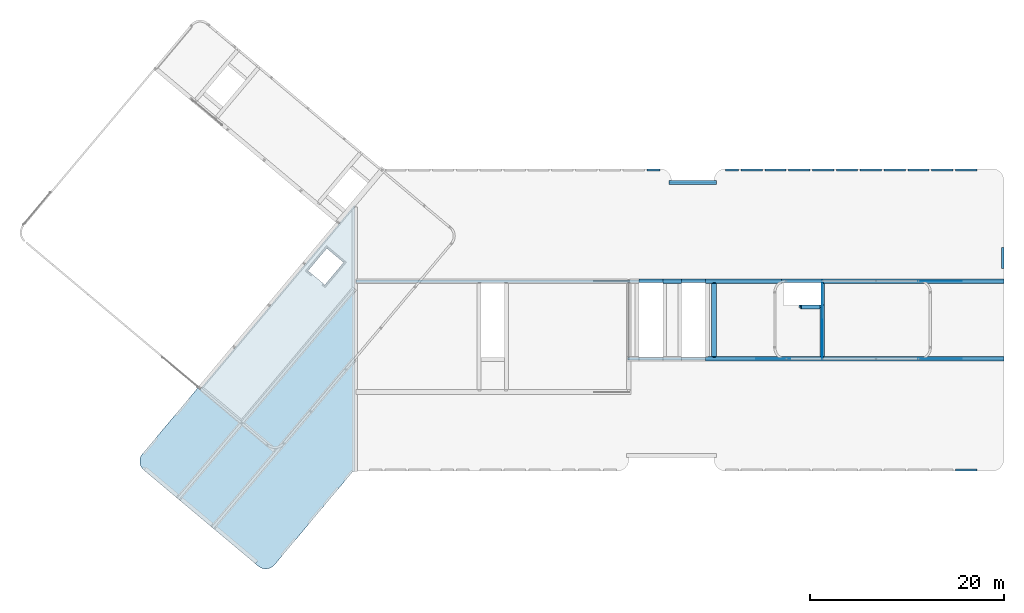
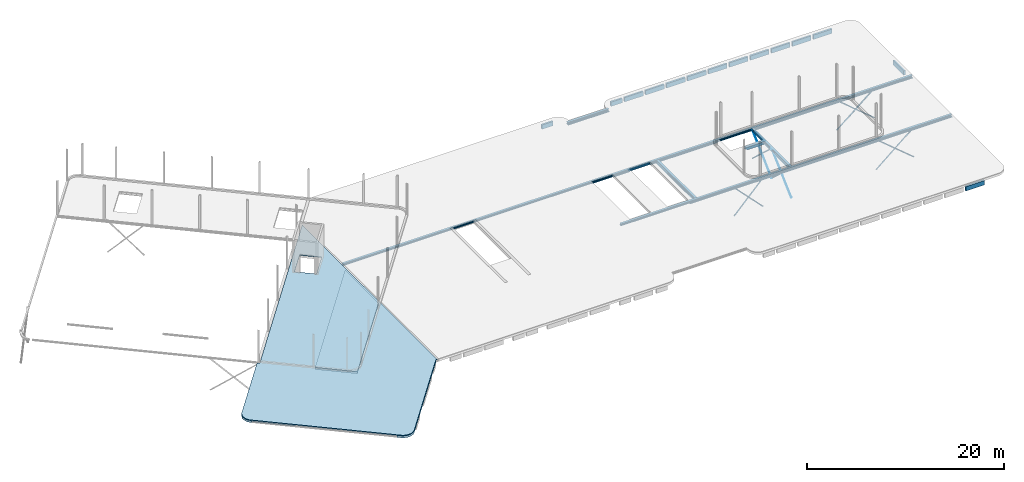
# One storey, part 8 of 11: 43 beams, 5 slabs, 1 opening.
"""IFC2X3 building model written with IfcOpenShell, lengths in millimetres."""

from ifc_helpers import new_model, entity, si_unit, converted_unit, derived_unit, direction, frame, frame_2d, origin, origin_2d_with_axis, place, context, subcontext, project, spatial, polyline, circle_curve, parameter, trimmed, segment, composite_curve, rectangle, i_section, outline, extrude, boolean, material, layer, layer_set, layer_usage, type_object, element, save


model = new_model("IFC2X3")

# Units and contexts
model_context = context("Model", 3, precision=0.01, world=origin(), true_north=direction((6.123031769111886e-17, 1.0)))
body_context = subcontext(model_context, "Body", "Model", "MODEL_VIEW")
ifc_project = project(units=[si_unit("LENGTHUNIT", "METRE", prefix="MILLI"), si_unit("AREAUNIT", "SQUARE_METRE"), si_unit("VOLUMEUNIT", "CUBIC_METRE"), derived_unit("MASSDENSITYUNIT", [(si_unit("MASSUNIT", "GRAM", prefix="KILO"), 1), (si_unit("LENGTHUNIT", "METRE"), -3)]), si_unit("MASSUNIT", "GRAM", prefix="KILO"), converted_unit("PLANEANGLEUNIT", "DEGREE", entity("IfcPlaneAngleMeasure", 0.017453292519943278), si_unit("PLANEANGLEUNIT", "RADIAN"), dimensions=[0, 0, 0, 0, 0, 0, 0])], contexts=[model_context])

# Site, building, storey
site_placement = place(None, origin())
site = spatial("IfcSite", under=ifc_project, at=site_placement, Name="Default", CompositionType="ELEMENT")
building_placement = place(site_placement, origin())
building = spatial("IfcBuilding", under=site, at=building_placement, Name="AT constructie", CompositionType="ELEMENT")
storey_placement = place(building_placement, frame((0.0, 0.0, 7728.0)))
storey = spatial("IfcBuildingStorey", under=building, at=storey_placement, Name="02 tweede verdieping", CompositionType="ELEMENT", Elevation=7728.0)

# Beams
ifc_material_1 = material(Name="f2_beton_prefab_gen")
beam_type_1 = type_object("IfcBeamType", Name="balk vierkant_gen_214x544 pbl", PredefinedType="NOTDEFINED")
for number, where in (
    (1, (83681.87463111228, 42871.04350852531, 0.0)),
    (2, (81221.87463111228, 42871.04350852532, 0.0)),
    (3, (86141.8746311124, 42871.0435085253, 0.0)),
):
    element("IfcBeam", number, at=place(storey_placement, frame(where)), inside=storey, type_object=beam_type_1, material=ifc_material_1, Name="NLRS_28_SF_LIB_balk vierkant prefab_gen_AT:balk vierkant_gen_214x544 pbl", ObjectType="NLRS_28_SF_LIB_balk vierkant prefab_gen_AT:balk vierkant_gen_214x544 pbl", context=body_context, shape_type="SweptSolid", body=[
        extrude(rectangle(XDim=544.0000000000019, YDim=213.99999999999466, at=frame_2d((0.0, 4.334310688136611e-12), x_axis=(1.0, 0.0))), frame((-190.0, -107.0, -642.0), z_axis=(1.0, 0.0, 0.0), x_axis=(0.0, 0.0, -1.0)), (0.0, 0.0, 1.0), 2190.0000000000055),
    ])
beam_1_placement = place(storey_placement, frame((88601.87463111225, 42871.04350852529, 0.0)))
element("IfcBeam", 4, at=beam_1_placement, inside=storey, type_object=beam_type_1, material=ifc_material_1, Name="NLRS_28_SF_LIB_balk vierkant prefab_gen_AT:balk vierkant_gen_214x544 pbl", ObjectType="NLRS_28_SF_LIB_balk vierkant prefab_gen_AT:balk vierkant_gen_214x544 pbl", context=body_context, shape_type="SweptSolid", body=[
    extrude(rectangle(XDim=544.0000000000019, YDim=213.99999999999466, at=frame_2d((0.0, -4.334310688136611e-12), x_axis=(1.0, 0.0))), frame((-190.0, -107.0, -642.0), z_axis=(1.0, 0.0, 0.0), x_axis=(0.0, 0.0, -1.0)), (0.0, 0.0, 1.0), 2190.0000000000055),
])
for number, where in (
    (5, (91061.87463111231, 42871.04350852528, 0.0)),
    (6, (93521.87463111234, 42871.043508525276, 0.0)),
    (7, (95981.87463111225, 42871.04350852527, 0.0)),
):
    element("IfcBeam", number, at=place(storey_placement, frame(where)), inside=storey, type_object=beam_type_1, material=ifc_material_1, Name="NLRS_28_SF_LIB_balk vierkant prefab_gen_AT:balk vierkant_gen_214x544 pbl", ObjectType="NLRS_28_SF_LIB_balk vierkant prefab_gen_AT:balk vierkant_gen_214x544 pbl", context=body_context, shape_type="SweptSolid", body=[
        extrude(rectangle(XDim=544.0000000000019, YDim=213.99999999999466, at=frame_2d((0.0, 4.334310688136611e-12), x_axis=(1.0, 0.0))), frame((-190.0, -107.0, -642.0), z_axis=(1.0, 0.0, 0.0), x_axis=(0.0, 0.0, -1.0)), (0.0, 0.0, 1.0), 2190.0000000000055),
    ])
beam_2_placement = place(storey_placement, frame((98441.87463111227, 42871.043508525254, 0.0)))
element("IfcBeam", 8, at=beam_2_placement, inside=storey, type_object=beam_type_1, material=ifc_material_1, Name="NLRS_28_SF_LIB_balk vierkant prefab_gen_AT:balk vierkant_gen_214x544 pbl", ObjectType="NLRS_28_SF_LIB_balk vierkant prefab_gen_AT:balk vierkant_gen_214x544 pbl", context=body_context, shape_type="SweptSolid", body=[
    extrude(rectangle(XDim=544.0000000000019, YDim=213.99999999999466, at=frame_2d((0.0, -4.334310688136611e-12), x_axis=(1.0, 0.0))), frame((-190.0, -107.0, -642.0), z_axis=(1.0, 0.0, 0.0), x_axis=(0.0, 0.0, -1.0)), (0.0, 0.0, 1.0), 2190.0000000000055),
])
for number, where in (
    (9, (100901.8746311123, 42871.04350852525, 0.0)),
    (10, (103361.87463111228, 42871.04350852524, 0.0)),
):
    element("IfcBeam", number, at=place(storey_placement, frame(where)), inside=storey, type_object=beam_type_1, material=ifc_material_1, Name="NLRS_28_SF_LIB_balk vierkant prefab_gen_AT:balk vierkant_gen_214x544 pbl", ObjectType="NLRS_28_SF_LIB_balk vierkant prefab_gen_AT:balk vierkant_gen_214x544 pbl", context=body_context, shape_type="SweptSolid", body=[
        extrude(rectangle(XDim=544.0000000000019, YDim=213.99999999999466, at=frame_2d((0.0, 4.334310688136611e-12), x_axis=(1.0, 0.0))), frame((-190.0, -107.0, -642.0), z_axis=(1.0, 0.0, 0.0), x_axis=(0.0, 0.0, -1.0)), (0.0, 0.0, 1.0), 2190.0000000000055),
    ])
beam_3_placement = place(storey_placement, frame((79641.87463111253, 42871.04350852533, 0.0)))
element("IfcBeam", 11, at=beam_3_placement, inside=storey, type_object=beam_type_1, material=ifc_material_1, Name="NLRS_28_SF_LIB_balk vierkant prefab_gen_AT:balk vierkant_gen_214x544 pbl", ObjectType="NLRS_28_SF_LIB_balk vierkant prefab_gen_AT:balk vierkant_gen_214x544 pbl", context=body_context, shape_type="SweptSolid", body=[
    extrude(rectangle(XDim=544.0000000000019, YDim=213.99999999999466, at=frame_2d((0.0, -4.334310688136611e-12), x_axis=(1.0, 0.0))), frame((-190.0, -107.0, -642.0), z_axis=(1.0, 0.0, 0.0), x_axis=(0.0, 0.0, -1.0)), (0.0, 0.0, 1.0), 1309.999999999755),
])
beam_4_placement = place(storey_placement, frame((103361.87463111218, 11671.043508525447, 0.0)))
element("IfcBeam", 12, at=beam_4_placement, inside=storey, type_object=beam_type_1, material=ifc_material_1, Name="NLRS_28_SF_LIB_balk vierkant prefab_gen_AT:balk vierkant_gen_214x544 pbl", ObjectType="NLRS_28_SF_LIB_balk vierkant prefab_gen_AT:balk vierkant_gen_214x544 pbl", context=body_context, shape_type="SweptSolid", body=[
    extrude(rectangle(XDim=544.0000000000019, YDim=213.999999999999, at=frame_2d((0.0, -1.0871303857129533e-12), x_axis=(1.0, 0.0))), frame((-190.0, 107.0, -642.0), z_axis=(1.0, 0.0, 0.0), x_axis=(0.0, 0.0, -1.0)), (0.0, 0.0, 1.0), 2190.000000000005),
])
beam_5_placement = place(storey_placement, frame((108146.87463111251, 34576.043508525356, 0.0), z_axis=(0.0, 0.0, 1.0), x_axis=(0.0, -1.0, 0.0)))
element("IfcBeam", 13, at=beam_5_placement, inside=storey, type_object=beam_type_1, material=ifc_material_1, Name="NLRS_28_SF_LIB_balk vierkant prefab_gen_AT:balk vierkant_gen_214x544 pbl", ObjectType="NLRS_28_SF_LIB_balk vierkant prefab_gen_AT:balk vierkant_gen_214x544 pbl", context=body_context, shape_type="SweptSolid", body=[
    extrude(rectangle(XDim=544.0000000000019, YDim=213.999999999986, at=origin_2d_with_axis()), frame((-190.0, -107.0, -642.0), z_axis=(1.0, 0.0, 0.0), x_axis=(0.0, 0.0, -1.0)), (0.0, 0.0, 1.0), 2190.0000000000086),
])
beam_6_placement = place(storey_placement, frame((71521.87463111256, 42871.043508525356, 0.0)))
element("IfcBeam", 14, at=beam_6_placement, inside=storey, type_object=beam_type_1, material=ifc_material_1, Name="NLRS_28_SF_LIB_balk vierkant prefab_gen_AT:balk vierkant_gen_214x544 pbl", ObjectType="NLRS_28_SF_LIB_balk vierkant prefab_gen_AT:balk vierkant_gen_214x544 pbl", context=body_context, shape_type="SweptSolid", body=[
    extrude(rectangle(XDim=544.0000000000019, YDim=213.99999999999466, at=frame_2d((0.0, 4.334310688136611e-12), x_axis=(1.0, 0.0))), frame((-190.0, -107.0, -642.0), z_axis=(1.0, 0.0, 0.0), x_axis=(0.0, 0.0, -1.0)), (0.0, 0.0, 1.0), 1309.999999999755),
])
ifc_material_2 = material(Name="h2_staal_S355")
beam_type_2 = type_object("IfcBeamType", Name="balk strip liggend_gen_500x15", PredefinedType="NOTDEFINED")
beam_7_placement = place(storey_placement, frame((77351.87463111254, 23271.043508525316, 0.0)))
element("IfcBeam", 15, at=beam_7_placement, inside=storey, type_object=beam_type_2, material=ifc_material_2, Name="NLRS_28_SF_LIB_balk strip_gen_AT:balk strip liggend_gen_500x15", ObjectType="NLRS_28_SF_LIB_balk strip_gen_AT:balk strip liggend_gen_500x15", context=body_context, shape_type="SweptSolid", body=[
    extrude(rectangle(XDim=14.99999999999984, YDim=499.999999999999, at=frame_2d((5.413447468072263e-13, 0.0), x_axis=(1.0, 0.0))), frame((6.096022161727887e-07, 0.0, -377.5000000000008), z_axis=(1.0, 0.0, 0.0), x_axis=(0.0, 0.0, -1.0)), (0.0, 0.0, 1.0), 30816.999999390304),
])
beam_8_placement = place(storey_placement, frame((78246.8746311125, 31021.04350852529, 0.0), z_axis=(0.0, 0.0, 1.0), x_axis=(0.0, -1.0, 0.0)))
element("IfcBeam", 16, at=beam_8_placement, inside=storey, type_object=beam_type_2, material=ifc_material_2, Name="NLRS_28_SF_LIB_balk strip_gen_AT:balk strip liggend_gen_500x15", ObjectType="NLRS_28_SF_LIB_balk strip_gen_AT:balk strip liggend_gen_500x15", context=body_context, shape_type="SweptSolid", body=[
    extrude(rectangle(XDim=14.99999999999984, YDim=499.999999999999, at=frame_2d((5.413447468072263e-13, -4.334310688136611e-12), x_axis=(1.0, 0.0))), frame((0.0, 0.0, -377.5000000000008), z_axis=(1.0, 0.0, 0.0), x_axis=(0.0, 0.0, -1.0)), (0.0, 0.0, 1.0), 7499.999999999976),
])
beam_9_placement = place(storey_placement, frame((89277.37463111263, 31271.043508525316, 0.0)))
element("IfcBeam", 17, at=beam_9_placement, inside=storey, type_object=beam_type_2, material=ifc_material_2, Name="NLRS_28_SF_LIB_balk strip_gen_AT:balk strip liggend_gen_500x15", ObjectType="NLRS_28_SF_LIB_balk strip_gen_AT:balk strip liggend_gen_500x15", context=body_context, shape_type="SweptSolid", body=[
    extrude(rectangle(XDim=14.99999999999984, YDim=499.999999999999, at=frame_2d((5.413447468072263e-13, 4.334310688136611e-12), x_axis=(1.0, 0.0))), frame((0.0, 0.0, -377.5000000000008), z_axis=(1.0, 0.0, 0.0), x_axis=(0.0, 0.0, -1.0)), (0.0, 0.0, 1.0), 18869.49999999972),
])
beam_10_placement = place(storey_placement, frame((77351.87463111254, 31271.043508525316, 0.0)))
element("IfcBeam", 18, at=beam_10_placement, inside=storey, type_object=beam_type_2, material=ifc_material_2, Name="NLRS_28_SF_LIB_balk strip_gen_AT:balk strip liggend_gen_500x15", ObjectType="NLRS_28_SF_LIB_balk strip_gen_AT:balk strip liggend_gen_500x15", context=body_context, shape_type="SweptSolid", body=[
    extrude(rectangle(XDim=14.99999999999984, YDim=499.999999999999, at=frame_2d((5.413447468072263e-13, 4.334310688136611e-12), x_axis=(1.0, 0.0))), frame((0.0, 0.0, -377.5000000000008), z_axis=(1.0, 0.0, 0.0), x_axis=(0.0, 0.0, -1.0)), (0.0, 0.0, 1.0), 7865.000000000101),
])
beam_11_placement = place(storey_placement, frame((89407.37463111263, 28828.043508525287, 0.0), z_axis=(0.0, 0.0, 1.0), x_axis=(0.0, -1.0, 0.0)))
element("IfcBeam", 19, at=beam_11_placement, inside=storey, type_object=beam_type_2, material=ifc_material_2, Name="NLRS_28_SF_LIB_balk strip_gen_AT:balk strip liggend_gen_500x15", ObjectType="NLRS_28_SF_LIB_balk strip_gen_AT:balk strip liggend_gen_500x15", context=body_context, shape_type="SweptSolid", body=[
    extrude(rectangle(XDim=14.99999999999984, YDim=499.9999999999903, at=frame_2d((5.413447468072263e-13, 8.668621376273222e-12), x_axis=(1.0, 0.0))), frame((0.0, 0.0, -377.5000000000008), z_axis=(1.0, 0.0, 0.0), x_axis=(0.0, 0.0, -1.0)), (0.0, 0.0, 1.0), 5307.000000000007),
])
beam_12_placement = place(storey_placement, frame((72951.87463111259, 31271.043508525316, 0.0)))
element("IfcBeam", 20, at=beam_12_placement, inside=storey, type_object=beam_type_2, material=ifc_material_2, Name="NLRS_28_SF_LIB_balk strip_gen_AT:balk strip liggend_gen_500x15", ObjectType="NLRS_28_SF_LIB_balk strip_gen_AT:balk strip liggend_gen_500x15", context=body_context, shape_type="SweptSolid", body=[
    extrude(rectangle(XDim=14.99999999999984, YDim=499.999999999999, at=frame_2d((5.413447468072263e-13, 4.334310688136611e-12), x_axis=(1.0, 0.0))), frame((0.0, 0.0, -377.5000000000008), z_axis=(1.0, 0.0, 0.0), x_axis=(0.0, 0.0, -1.0)), (0.0, 0.0, 1.0), 1949.9999999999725),
])
beam_type_3 = type_object("IfcBeamType", Name="balk HE_gen_HEB260", PredefinedType="NOTDEFINED")
beam_13_placement = place(storey_placement, frame((78473.37462790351, 41541.04350852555, 0.0), z_axis=(0.0, 0.0, 1.0), x_axis=(-1.0, 0.0, 0.0)))
element("IfcBeam", 21, at=beam_13_placement, inside=storey, type_object=beam_type_3, material=ifc_material_2, Name="NLRS_28_SF_LIB_balk HEB_gen_AT:balk HE_gen_HEB260", ObjectType="NLRS_28_SF_LIB_balk HEB_gen_AT:balk HE_gen_HEB260", context=body_context, shape_type="SweptSolid", body=[
    extrude(i_section(OverallWidth=260.00000000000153, OverallDepth=260.00000000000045, WebThickness=9.999999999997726, FlangeThickness=17.50000000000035, FilletRadius=24.00000000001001, at=frame_2d((5.400124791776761e-13, 4.320099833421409e-12), x_axis=(0.0, 1.0))), frame((0.0, 0.0, -240.0), z_axis=(1.0, 0.0, 0.0), x_axis=(0.0, 0.0, -1.0)), (0.0, 0.0, 1.0), 4852.9999967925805),
])
beam_14_placement = place(storey_placement, frame((69316.87463111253, 23271.043508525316, 0.0)))
element("IfcBeam", 22, at=beam_14_placement, inside=storey, type_object=beam_type_3, material=ifc_material_2, Name="NLRS_28_SF_LIB_balk HEB_gen_AT:balk HE_gen_HEB260", ObjectType="NLRS_28_SF_LIB_balk HEB_gen_AT:balk HE_gen_HEB260", context=body_context, shape_type="SweptSolid", body=[
    extrude(i_section(OverallWidth=260.00000000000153, OverallDepth=260.00000000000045, WebThickness=9.999999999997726, FlangeThickness=17.50000000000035, FilletRadius=23.999999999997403, at=frame_2d((5.400124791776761e-13, -4.320099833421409e-12), x_axis=(0.0, 1.0))), frame((0.0, 0.0, -240.0), z_axis=(1.0, 0.0, 0.0), x_axis=(0.0, 0.0, -1.0)), (0.0, 0.0, 1.0), 38851.99999999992),
])
beam_15_placement = place(storey_placement, frame((41146.874631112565, 31271.043508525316, 0.0)))
element("IfcBeam", 23, at=beam_15_placement, inside=storey, type_object=beam_type_3, material=ifc_material_2, Name="NLRS_28_SF_LIB_balk HEB_gen_AT:balk HE_gen_HEB260", ObjectType="NLRS_28_SF_LIB_balk HEB_gen_AT:balk HE_gen_HEB260", context=body_context, shape_type="SweptSolid", body=[
    extrude(i_section(OverallWidth=260.00000000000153, OverallDepth=260.00000000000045, WebThickness=9.999999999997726, FlangeThickness=17.50000000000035, FilletRadius=23.999999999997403, at=frame_2d((5.400124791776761e-13, -8.668621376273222e-12), x_axis=(0.0, 1.0))), frame((150.0, 0.0, -240.0), z_axis=(1.0, 0.0, 0.0), x_axis=(0.0, 0.0, -1.0)), (0.0, 0.0, 1.0), 66849.99999999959),
])
for number, where, z_axis, x_axis in (
    (24, (78246.87463111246, 31141.04350852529, 0.0), (0.0, 0.0, 1.0), (0.0, -1.0, 0.0)),
    (25, (89407.37463111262, 31141.04350852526, 0.0), (0.0, 0.0, 1.0), (0.0, -1.0, 0.0)),
):
    element("IfcBeam", number, at=place(storey_placement, frame(where, z_axis=z_axis, x_axis=x_axis)), inside=storey, type_object=beam_type_3, material=ifc_material_2, Name="NLRS_28_SF_LIB_balk HEB_gen_AT:balk HE_gen_HEB260", ObjectType="NLRS_28_SF_LIB_balk HEB_gen_AT:balk HE_gen_HEB260", context=body_context, shape_type="SweptSolid", body=[
        extrude(i_section(OverallWidth=259.9999999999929, OverallDepth=260.00000000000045, WebThickness=9.999999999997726, FlangeThickness=17.50000000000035, FilletRadius=23.99999999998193, at=frame_2d((5.400124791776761e-13, -1.7323031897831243e-11), x_axis=(0.0, 1.0))), frame((0.0, 0.0, -240.0), z_axis=(1.0, 0.0, 0.0), x_axis=(0.0, 0.0, -1.0)), (0.0, 0.0, 1.0), 7740.0),
    ])
beam_16_placement = place(storey_placement, frame((87030.87463111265, 28678.0435085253, 0.0)))
element("IfcBeam", 26, at=beam_16_placement, inside=storey, type_object=beam_type_3, material=ifc_material_2, Name="NLRS_28_SF_LIB_balk HEB_gen_AT:balk HE_gen_HEB260", ObjectType="NLRS_28_SF_LIB_balk HEB_gen_AT:balk HE_gen_HEB260", context=body_context, shape_type="SweptSolid", body=[
    extrude(i_section(OverallWidth=259.9999999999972, OverallDepth=260.00000000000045, WebThickness=9.999999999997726, FlangeThickness=17.50000000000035, FilletRadius=23.999999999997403, at=frame_2d((5.400124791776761e-13, 4.320099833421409e-12), x_axis=(0.0, 1.0))), frame((0.0, 0.0, -240.0), z_axis=(1.0, 0.0, 0.0), x_axis=(0.0, 0.0, -1.0)), (0.0, 0.0, 1.0), 2246.4999999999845),
])
beam_type_4 = type_object("IfcBeamType", Name="balk strip liggend_gen_420x15", PredefinedType="NOTDEFINED")
beam_17_placement = place(storey_placement, frame((87244.87463111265, 28618.0435085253, 0.0)))
element("IfcBeam", 27, at=beam_17_placement, inside=storey, type_object=beam_type_4, material=ifc_material_2, Name="NLRS_28_SF_LIB_balk strip_gen_AT:balk strip liggend_gen_420x15", ObjectType="NLRS_28_SF_LIB_balk strip_gen_AT:balk strip liggend_gen_420x15", context=body_context, shape_type="SweptSolid", body=[
    extrude(rectangle(XDim=14.99999999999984, YDim=419.99999999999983, at=frame_2d((5.413447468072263e-13, 0.0), x_axis=(1.0, 0.0))), frame((0.0, 0.0, -377.5000000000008), z_axis=(1.0, 0.0, 0.0), x_axis=(0.0, 0.0, -1.0)), (0.0, 0.0, 1.0), 1912.4999999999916),
])
beam_18_placement = place(storey_placement, frame((87187.87463111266, 28618.043508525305, 0.0)))
element("IfcBeam", 28, at=beam_18_placement, inside=storey, type_object=beam_type_4, material=ifc_material_2, Name="NLRS_28_SF_LIB_balk strip_gen_AT:balk strip liggend_gen_420x15", ObjectType="NLRS_28_SF_LIB_balk strip_gen_AT:balk strip liggend_gen_420x15", context=body_context, shape_type="SweptSolid", body=[
    extrude(rectangle(XDim=14.99999999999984, YDim=419.99999999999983, at=frame_2d((-5.413447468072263e-13, 0.0), x_axis=(1.0, 0.0))), frame((0.0, 0.0, -377.5000000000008), z_axis=(1.0, 0.0, 0.0), x_axis=(0.0, 0.0, 1.0)), (0.0, 0.0, 1.0), 1969.499999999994),
])
beam_type_5 = type_object("IfcBeamType", Name="balk strip liggend_gen_400x15", PredefinedType="NOTDEFINED")
beam_19_placement = place(storey_placement, frame((78473.37463291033, 41471.04350852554, 0.0), z_axis=(0.0, 0.0, 1.0), x_axis=(-1.0, 0.0, 0.0)))
element("IfcBeam", 29, at=beam_19_placement, inside=storey, type_object=beam_type_5, material=ifc_material_2, Name="NLRS_28_SF_LIB_balk strip_gen_AT:balk strip liggend_gen_400x15", ObjectType="NLRS_28_SF_LIB_balk strip_gen_AT:balk strip liggend_gen_400x15", context=body_context, shape_type="SweptSolid", body=[
    extrude(rectangle(XDim=14.99999999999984, YDim=400.0000000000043, at=frame_2d((5.413447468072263e-13, -4.334310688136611e-12), x_axis=(1.0, 0.0))), frame((0.0, 0.0, -377.5000000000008), z_axis=(1.0, 0.0, 0.0), x_axis=(0.0, 0.0, -1.0)), (0.0, 0.0, 1.0), 4853.000001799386),
])
beam_20_placement = place(storey_placement, frame((89457.3746311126, 31021.04350852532, 0.0), z_axis=(0.0, 0.0, 1.0), x_axis=(0.0, -1.0, 0.0)))
element("IfcBeam", 30, at=beam_20_placement, inside=storey, type_object=beam_type_5, material=ifc_material_2, Name="NLRS_28_SF_LIB_balk strip_gen_AT:balk strip liggend_gen_400x15", ObjectType="NLRS_28_SF_LIB_balk strip_gen_AT:balk strip liggend_gen_400x15", context=body_context, shape_type="SweptSolid", body=[
    extrude(rectangle(XDim=14.99999999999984, YDim=400.000000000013, at=frame_2d((5.413447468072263e-13, -8.668621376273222e-12), x_axis=(1.0, 0.0))), frame((0.0, 0.0, -377.5000000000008), z_axis=(1.0, 0.0, 0.0), x_axis=(0.0, 0.0, -1.0)), (0.0, 0.0, 1.0), 2193.000000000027),
])
beam_21_placement = place(storey_placement, frame((85216.87463111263, 31321.04350852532, 0.0)))
element("IfcBeam", 31, at=beam_21_placement, inside=storey, type_object=beam_type_5, material=ifc_material_2, Name="NLRS_28_SF_LIB_balk strip_gen_AT:balk strip liggend_gen_400x15", ObjectType="NLRS_28_SF_LIB_balk strip_gen_AT:balk strip liggend_gen_400x15", context=body_context, shape_type="SweptSolid", body=[
    extrude(rectangle(XDim=14.99999999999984, YDim=400.0, at=frame_2d((5.413447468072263e-13, -2.1742607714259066e-12), x_axis=(1.0, 0.0))), frame((0.0, 0.0, -377.5000000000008), z_axis=(1.0, 0.0, 0.0), x_axis=(0.0, 0.0, -1.0)), (0.0, 0.0, 1.0), 4040.4999999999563),
])
for number, where in (
    (32, (70501.87463111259, 31321.04350852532, 0.0)),
    (33, (74901.87463111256, 31321.043508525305, 0.0)),
):
    element("IfcBeam", number, at=place(storey_placement, frame(where)), inside=storey, type_object=beam_type_5, material=ifc_material_2, Name="NLRS_28_SF_LIB_balk strip_gen_AT:balk strip liggend_gen_400x15", ObjectType="NLRS_28_SF_LIB_balk strip_gen_AT:balk strip liggend_gen_400x15", context=body_context, shape_type="SweptSolid", body=[
        extrude(rectangle(XDim=14.99999999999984, YDim=400.0, at=frame_2d((5.413447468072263e-13, -2.1742607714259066e-12), x_axis=(1.0, 0.0))), frame((0.0, 0.0, -377.5000000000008), z_axis=(1.0, 0.0, 0.0), x_axis=(0.0, 0.0, -1.0)), (0.0, 0.0, 1.0), 2449.99999999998),
    ])
beam_type_6 = type_object("IfcBeamType", Name="balk strip liggend_gen_120x10", PredefinedType="NOTDEFINED")
beam_22_placement = place(storey_placement, frame((89402.37463111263, 31271.04350852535, -240.0), z_axis=(0.0, -0.6764579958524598, 0.73648121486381), x_axis=(0.0, -0.73648121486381, -0.6764579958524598)))
element("IfcBeam", 34, at=beam_22_placement, inside=storey, type_object=beam_type_6, material=ifc_material_2, Name="NLRS_28_SF_LIB_balk strip_gen_AT:balk strip liggend_gen_120x10", ObjectType="NLRS_28_SF_LIB_balk strip_gen_AT:balk strip liggend_gen_120x10", context=body_context, shape_type="SweptSolid", body=[
    extrude(rectangle(XDim=119.99999999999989, YDim=9.999999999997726, at=frame_2d((3.4567904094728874e-12, -8.662848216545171e-12), x_axis=(1.0, 0.0))), frame((0.0, -5.0, 0.0), z_axis=(1.0, 0.0, 0.0), x_axis=(0.0, 0.0, -1.0)), (0.0, 0.0, 1.0), 5431.23153621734),
])
beam_23_placement = place(storey_placement, frame((89402.37463111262, 27227.01383872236, -199.5587482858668), z_axis=(0.0, 0.6764579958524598, 0.73648121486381), x_axis=(0.0, 0.73648121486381, -0.6764579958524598)))
element("IfcBeam", 35, at=beam_23_placement, inside=storey, type_object=beam_type_6, material=ifc_material_2, Name="NLRS_28_SF_LIB_balk strip_gen_AT:balk strip liggend_gen_120x10", ObjectType="NLRS_28_SF_LIB_balk strip_gen_AT:balk strip liggend_gen_120x10", context=body_context, shape_type="SweptSolid", body=[
    extrude(rectangle(XDim=119.99999999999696, YDim=9.999999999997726, at=frame_2d((-6.512124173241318e-12, 0.0), x_axis=(1.0, 0.0))), frame((0.0, 5.0, 0.0), z_axis=(1.0, 0.0, 0.0), x_axis=(0.0, 0.0, -1.0)), (0.0, 0.0, 1.0), 5431.23153621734),
])
beam_24_placement = place(storey_placement, frame((89412.37463111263, 23396.043508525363, -354.8124999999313), z_axis=(0.0, 0.6764579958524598, 0.73648121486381), x_axis=(0.0, 0.73648121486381, -0.6764579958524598)))
element("IfcBeam", 36, at=beam_24_placement, inside=storey, type_object=beam_type_6, material=ifc_material_2, Name="NLRS_28_SF_LIB_balk strip_gen_AT:balk strip liggend_gen_120x10", ObjectType="NLRS_28_SF_LIB_balk strip_gen_AT:balk strip liggend_gen_120x10", context=body_context, shape_type="SweptSolid", body=[
    extrude(rectangle(XDim=119.99999999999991, YDim=9.999999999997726, at=frame_2d((-2.263078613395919e-12, 0.0), x_axis=(1.0, 0.0))), frame((0.0, 5.0, 0.0), z_axis=(1.0, 0.0, 0.0), x_axis=(0.0, 0.0, -1.0)), (0.0, 0.0, 1.0), 5201.721717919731),
])
beam_25_placement = place(storey_placement, frame((89402.37463111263, 27271.043508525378, -240.0), z_axis=(0.0, -0.6764579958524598, 0.73648121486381), x_axis=(0.0, -0.73648121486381, -0.6764579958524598)))
element("IfcBeam", 37, at=beam_25_placement, inside=storey, type_object=beam_type_6, material=ifc_material_2, Name="NLRS_28_SF_LIB_balk strip_gen_AT:balk strip liggend_gen_120x10", ObjectType="NLRS_28_SF_LIB_balk strip_gen_AT:balk strip liggend_gen_120x10", context=body_context, shape_type="SweptSolid", body=[
    extrude(rectangle(XDim=120.00000000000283, YDim=9.999999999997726, at=frame_2d((6.512124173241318e-12, -8.662848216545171e-12), x_axis=(1.0, 0.0))), frame((0.0, -5.0, 0.0), z_axis=(1.0, 0.0, 0.0), x_axis=(0.0, 0.0, -1.0)), (0.0, 0.0, 1.0), 5431.23153621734),
])
beam_26_placement = place(storey_placement, frame((103746.87463111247, 23266.04350852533, -240.0), z_axis=(-0.6409390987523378, 0.0, 0.7675917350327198), x_axis=(-0.7675917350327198, 0.0, -0.6409390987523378)))
element("IfcBeam", 38, at=beam_26_placement, inside=storey, type_object=beam_type_6, material=ifc_material_2, Name="NLRS_28_SF_LIB_balk strip_gen_AT:balk strip liggend_gen_120x10", ObjectType="NLRS_28_SF_LIB_balk strip_gen_AT:balk strip liggend_gen_120x10", context=body_context, shape_type="SweptSolid", body=[
    extrude(rectangle(XDim=120.00000000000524, YDim=9.999999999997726, at=origin_2d_with_axis()), frame((0.0, -5.0, 0.0), z_axis=(1.0, 0.0, 0.0), x_axis=(0.0, 0.0, -1.0)), (0.0, 0.0, 1.0), 5732.21388296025),
])
beam_27_placement = place(storey_placement, frame((99346.87463111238, 23266.043508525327, -240.0), z_axis=(0.6412610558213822, 0.0, 0.7673227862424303), x_axis=(0.7673227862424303, 0.0, -0.6412610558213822)))
element("IfcBeam", 39, at=beam_27_placement, inside=storey, type_object=beam_type_6, material=ifc_material_2, Name="NLRS_28_SF_LIB_balk strip_gen_AT:balk strip liggend_gen_120x10", ObjectType="NLRS_28_SF_LIB_balk strip_gen_AT:balk strip liggend_gen_120x10", context=body_context, shape_type="SweptSolid", body=[
    extrude(rectangle(XDim=120.00000000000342, YDim=10.000000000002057, at=frame_2d((0.0, -2.1658230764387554e-12), x_axis=(1.0, 0.0))), frame((0.0, 5.0, 0.0), z_axis=(1.0, 0.0, 0.0), x_axis=(0.0, 0.0, -1.0)), (0.0, 0.0, 1.0), 5734.223040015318),
])
beam_28_placement = place(storey_placement, frame((86046.87463111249, 23266.04350852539, -343.7976447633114), z_axis=(0.720158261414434, 0.0, -0.6938098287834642), x_axis=(-0.6938098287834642, 0.0, -0.720158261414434)))
element("IfcBeam", 40, at=beam_28_placement, inside=storey, type_object=beam_type_6, material=ifc_material_2, Name="NLRS_28_SF_LIB_balk strip_gen_AT:balk strip liggend_gen_120x10", ObjectType="NLRS_28_SF_LIB_balk strip_gen_AT:balk strip liggend_gen_120x10", context=body_context, shape_type="SweptSolid", body=[
    extrude(rectangle(XDim=119.99999999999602, YDim=9.999999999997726, at=frame_2d((0.0, 4.331646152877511e-12), x_axis=(1.0, 0.0))), frame((0.0, 5.0, 0.0), z_axis=(1.0, 0.0, 0.0), x_axis=(0.0, 0.0, -1.0)), (0.0, 0.0, 1.0), 4855.234243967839),
])
beam_29_placement = place(storey_placement, frame((82649.94371076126, 23266.043508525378, -339.4565532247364), z_axis=(0.7193398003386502, 0.0, 0.6946583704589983), x_axis=(0.6946583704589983, 0.0, -0.7193398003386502)))
element("IfcBeam", 41, at=beam_29_placement, inside=storey, type_object=beam_type_6, material=ifc_material_2, Name="NLRS_28_SF_LIB_balk strip_gen_AT:balk strip liggend_gen_120x10", ObjectType="NLRS_28_SF_LIB_balk strip_gen_AT:balk strip liggend_gen_120x10", context=body_context, shape_type="SweptSolid", body=[
    extrude(rectangle(XDim=119.99999999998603, YDim=10.000000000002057, at=frame_2d((7.531752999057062e-13, -2.1658230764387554e-12), x_axis=(1.0, 0.0))), frame((0.0, 5.0, 0.0), z_axis=(1.0, 0.0, 0.0), x_axis=(0.0, 0.0, -1.0)), (0.0, 0.0, 1.0), 4890.074121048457),
])
beam_30_placement = place(storey_placement, frame((99344.25892525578, 31281.04350854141, -237.81402256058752), z_axis=(0.6412610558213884, 0.0, 0.767322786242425), x_axis=(0.767322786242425, 0.0, -0.6412610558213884)))
element("IfcBeam", 42, at=beam_30_placement, inside=storey, type_object=beam_type_6, material=ifc_material_2, Name="NLRS_28_SF_LIB_balk strip_gen_AT:balk strip liggend_gen_120x10", ObjectType="NLRS_28_SF_LIB_balk strip_gen_AT:balk strip liggend_gen_120x10", context=body_context, shape_type="SweptSolid", body=[
    extrude(rectangle(XDim=120.00000000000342, YDim=9.999999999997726, at=frame_2d((0.0, 4.331646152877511e-12), x_axis=(1.0, 0.0))), frame((0.0, -5.0, 0.0), z_axis=(1.0, 0.0, 0.0), x_axis=(0.0, 0.0, -1.0)), (0.0, 0.0, 1.0), 5737.6319129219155),
])
beam_31_placement = place(storey_placement, frame((103785.33097703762, 31281.043508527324, -207.8889511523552), z_axis=(-0.6409390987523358, 0.0, 0.7675917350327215), x_axis=(-0.7675917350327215, 0.0, -0.6409390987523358)))
element("IfcBeam", 43, at=beam_31_placement, inside=storey, type_object=beam_type_6, material=ifc_material_2, Name="NLRS_28_SF_LIB_balk strip_gen_AT:balk strip liggend_gen_120x10", ObjectType="NLRS_28_SF_LIB_balk strip_gen_AT:balk strip liggend_gen_120x10", context=body_context, shape_type="SweptSolid", body=[
    extrude(rectangle(XDim=120.00000000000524, YDim=10.000000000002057, at=frame_2d((4.121147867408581e-13, 2.1658230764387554e-12), x_axis=(1.0, 0.0))), frame((0.0, 5.0, 0.0), z_axis=(1.0, 0.0, 0.0), x_axis=(0.0, 0.0, -1.0)), (0.0, 0.0, 1.0), 5778.892383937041),
])

# Slabs
ifc_layer_1 = layer(ifc_material_1, 260.0)
ifc_layer_set_1 = layer_set([ifc_layer_1], Name="Floor:NLRS_23_FL_kanaalplaatvloer 260_gen_AT")
ifc_layer_usage_1 = layer_usage(ifc_layer_set_1, "AXIS3", "POSITIVE", 0.0)
slab_type_1 = type_object("IfcSlabType", Name="NLRS_23_FL_kanaalplaatvloer 260_gen_AT", PredefinedType="FLOOR", material=ifc_layer_set_1)
slab_1_placement = place(storey_placement, origin())
element("IfcSlab", 44, at=slab_1_placement, inside=storey, type_object=slab_type_1, material=ifc_layer_usage_1, Name="Floor:NLRS_23_FL_kanaalplaatvloer 260_gen_AT", ObjectType="Floor:NLRS_23_FL_kanaalplaatvloer 260_gen_AT", PredefinedType="FLOOR", context=body_context, shape_type="SweptSolid", body=[
    extrude(outline(composite_curve([segment(polyline([(-15923.01713561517, -7447.378650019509), (-4690.6911056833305, -7447.378650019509)]), True, "CONTINUOUS"), segment(polyline([(-4690.6911056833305, -7447.378650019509), (4990.104952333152, 675.7737517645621)]), True, "CONTINUOUS"), segment(trimmed(circle_curve(frame_2d((4188.560988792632, 1568.8175774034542), x_axis=(0.6679533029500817, -0.7442031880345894)), 1200.0000000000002), [parameter(0.0)], [parameter(88.09073117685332)], True, "PARAMETER"), True, "CONTINUOUS"), segment(polyline([(5107.81396001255, 2340.163138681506), (4853.484840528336, 2643.2604928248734)]), True, "CONTINUOUS"), segment(polyline([(4853.484840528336, 2643.2604928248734), (4638.992396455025, 2463.2799621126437)]), True, "CONTINUOUS"), segment(polyline([(4638.992396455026, 2463.2799621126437), (1023.3120919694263, 6772.279954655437)]), True, "CONTINUOUS"), segment(polyline([(1023.3120919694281, 6772.279954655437), (-15923.017135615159, -7447.3786500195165)]), True, "CONTINUOUS")], self_intersect=False)), frame((33549.495981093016, 6972.795186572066, -110.0), z_axis=(0.0, 0.0, -1.0), x_axis=(0.0, -1.0, 0.0)), (0.0, 0.0, 1.0), 260.00000000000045),
])
ifc_layer_usage_2 = layer_usage(ifc_layer_set_1, "AXIS3", "POSITIVE", 0.0)
slab_2_placement = place(storey_placement, origin())
element("IfcSlab", 45, at=slab_2_placement, inside=storey, type_object=slab_type_1, material=ifc_layer_usage_2, Name="Floor:NLRS_23_FL_kanaalplaatvloer 260_gen_AT", ObjectType="Floor:NLRS_23_FL_kanaalplaatvloer 260_gen_AT", PredefinedType="FLOOR", context=body_context, shape_type="SweptSolid", body=[
    extrude(rectangle(XDim=9839.999999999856, YDim=4370.000000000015, at=frame_2d((-6.821210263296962e-12, -4.547473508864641e-13), x_axis=(1.0, 0.0))), frame((28051.43151380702, 11302.893212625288, -110.0), z_axis=(0.0, 0.0, -1.0), x_axis=(-0.6427876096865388, -0.7660444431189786, 0.0)), (0.0, 0.0, 1.0), 260.00000000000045),
])
ifc_layer_usage_3 = layer_usage(ifc_layer_set_1, "AXIS3", "POSITIVE", 0.0)
slab_3_placement = place(storey_placement, origin())
element("IfcSlab", 46, at=slab_3_placement, inside=storey, type_object=slab_type_1, material=ifc_layer_usage_3, Name="Floor:NLRS_23_FL_kanaalplaatvloer 260_gen_AT", ObjectType="Floor:NLRS_23_FL_kanaalplaatvloer 260_gen_AT", PredefinedType="FLOOR", context=body_context, shape_type="SweptSolid", body=[
    extrude(outline(composite_curve([segment(polyline([(-4877.4846562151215, -3883.7499997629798), (5092.515343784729, -3883.749999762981)]), True, "CONTINUOUS"), segment(polyline([(5092.515343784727, -3883.7499997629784), (5092.5153437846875, 586.2499983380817)]), True, "CONTINUOUS"), segment(polyline([(5092.5153437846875, 586.2499983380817), (5242.515350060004, 586.2500002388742)]), True, "CONTINUOUS"), segment(trimmed(circle_curve(frame_2d((4042.5153285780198, 586.2499850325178), x_axis=(1.0, 1.2671080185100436e-08)), 1200.000021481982), [parameter(0.0)], [parameter(90.00585974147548)], True, "PARAMETER"), True, "CONTINUOUS"), segment(polyline([(4042.3925872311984, 1786.250000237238), (-4857.484656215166, 1786.2500002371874)]), True, "CONTINUOUS"), segment(polyline([(-4857.484656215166, 1786.2500002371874), (-4857.4846562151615, 1511.2500002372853)]), True, "CONTINUOUS"), segment(polyline([(-4857.484656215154, 1511.2500002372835), (-4877.48465621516, 1511.2500002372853)]), True, "CONTINUOUS"), segment(polyline([(-4877.48465621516, 1511.2500002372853), (-4877.4846562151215, -3883.7499997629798)]), True, "CONTINUOUS")], self_intersect=False)), frame((23230.656080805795, 15403.503940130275, -110.0), z_axis=(0.0, 0.0, -1.0), x_axis=(-0.6427876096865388, -0.7660444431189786, 0.0)), (0.0, 0.0, 1.0), 260.0000000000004),
])
ifc_layer_usage_4 = layer_usage(ifc_layer_set_1, "AXIS3", "POSITIVE", 0.0)
slab_4_placement = place(storey_placement, origin())
element("IfcSlab", 47, at=slab_4_placement, inside=storey, type_object=slab_type_1, material=ifc_layer_usage_4, Name="Floor:NLRS_23_FL_kanaalplaatvloer 260_gen_AT", ObjectType="Floor:NLRS_23_FL_kanaalplaatvloer 260_gen_AT", PredefinedType="FLOOR", context=body_context, shape_type="SweptSolid", body=[
    extrude(outline(polyline([(-9129.090625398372, -4807.90164956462), (-2330.5775020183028, -4807.90164956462), (7134.324990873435, 3134.094541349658), (4325.343136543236, 6481.708757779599), (-9129.090625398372, -4807.90164956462)])), frame((36188.9729815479, 21000.837491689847, -110.0), z_axis=(0.0, 0.0, -1.0), x_axis=(0.0, -1.0, 0.0)), (0.0, 0.0, 1.0), 260.00000000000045),
])

# Slab, opening
ifc_material_3 = material(Name="f2_beton ihwg_gen")
ifc_layer_2 = layer(ifc_material_3, 60.0)
ifc_layer_set_2 = layer_set([ifc_layer_2], Name="Floor:NLRS_23_FL_gewapende druklaag  beton_60_gen_AT")
ifc_layer_usage_5 = layer_usage(ifc_layer_set_2, "AXIS3", "POSITIVE", 0.0)
slab_type_2 = type_object("IfcSlabType", Name="NLRS_23_FL_gewapende druklaag  beton_60_gen_AT", PredefinedType="FLOOR", material=ifc_layer_set_2)
slab_5_placement = place(storey_placement, origin())
slab_5 = element("IfcSlab", 48, at=slab_5_placement, inside=storey, type_object=slab_type_2, material=ifc_layer_usage_5, Name="Floor:NLRS_23_FL_gewapende druklaag  beton_60_gen_AT", ObjectType="Floor:NLRS_23_FL_gewapende druklaag  beton_60_gen_AT", PredefinedType="FLOOR", context=body_context, shape_type="SweptSolid", body=[
    boolean("DIFFERENCE", extrude(outline(composite_curve([segment(polyline([(-24457.455450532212, -10456.57765313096), (3001.3104378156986, -10456.57765313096)]), True, "CONTINUOUS"), segment(polyline([(3001.3104378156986, -10456.57765313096), (3001.3104378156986, -10293.200069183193)]), True, "CONTINUOUS"), segment(polyline([(3001.3104378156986, -10293.200069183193), (12666.16371210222, -2183.42525134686)]), True, "CONTINUOUS"), segment(trimmed(circle_curve(frame_2d((11864.619748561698, -1290.3814257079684), x_axis=(0.6679533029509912, -0.7442031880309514)), 1199.9999999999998), [parameter(0.0)], [parameter(88.09073117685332)], True, "PARAMETER"), True, "CONTINUOUS"), segment(polyline([(12783.872719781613, -519.0358644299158), (2881.871477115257, 11281.69848900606)]), True, "CONTINUOUS"), segment(trimmed(circle_curve(frame_2d((1965.2621833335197, 10507.213205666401), x_axis=(0.7638410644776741, 0.6454043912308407)), 1200.00002148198), [parameter(0.0)], [parameter(89.80399716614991)], True, "PARAMETER"), True, "CONTINUOUS"), segment(polyline([(1193.9170535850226, 11426.466558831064), (-5623.878490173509, 5705.656832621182)]), True, "CONTINUOUS"), segment(polyline([(-5623.878490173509, 5705.656832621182), (-5447.111897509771, 5494.994610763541)]), True, "CONTINUOUS"), segment(polyline([(-5447.111897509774, 5494.994610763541), (-24457.455450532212, -10456.57765313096)]), True, "CONTINUOUS")], self_intersect=False)), frame((30690.29697798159, 14648.853946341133, -50.0), z_axis=(0.0, 0.0, -1.0), x_axis=(0.0, -1.0, 0.0)), (0.0, 0.0, 1.0), 60.00000000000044), extrude(rectangle(XDim=3010.000000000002, YDim=2260.0000000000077, at=frame_2d((-1.3642420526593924e-12, 1.7053025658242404e-12), x_axis=(1.0, 0.0))), frame((38179.58940716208, 32771.28940645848, -110.0), z_axis=(0.0, 0.0, 1.0), x_axis=(0.64278760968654, 0.7660444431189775, 0.0)), (0.0, 0.0, 1.0), 60.00000000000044)),
])
opening_placement = place(slab_5_placement, origin())
element("IfcOpeningElement", 49, at=opening_placement, cuts=slab_5, Name="Floor:NLRS_23_FL_gewapende druklaag  beton_60_gen_AT", ObjectType="Opening", context=body_context, shape_type="SweptSolid", body=[
    extrude(rectangle(XDim=3010.000000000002, YDim=2260.000000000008, at=frame_2d((4.661160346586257e-12, -1.1368683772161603e-12), x_axis=(1.0, 0.0))), frame((38179.58940716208, 32771.28940645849, -50.0), z_axis=(0.0, 0.0, -1.0), x_axis=(-0.64278760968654, -0.7660444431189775, 0.0)), (0.0, 0.0, 1.0), 60.0),
])

save(model, "model.ifc")
